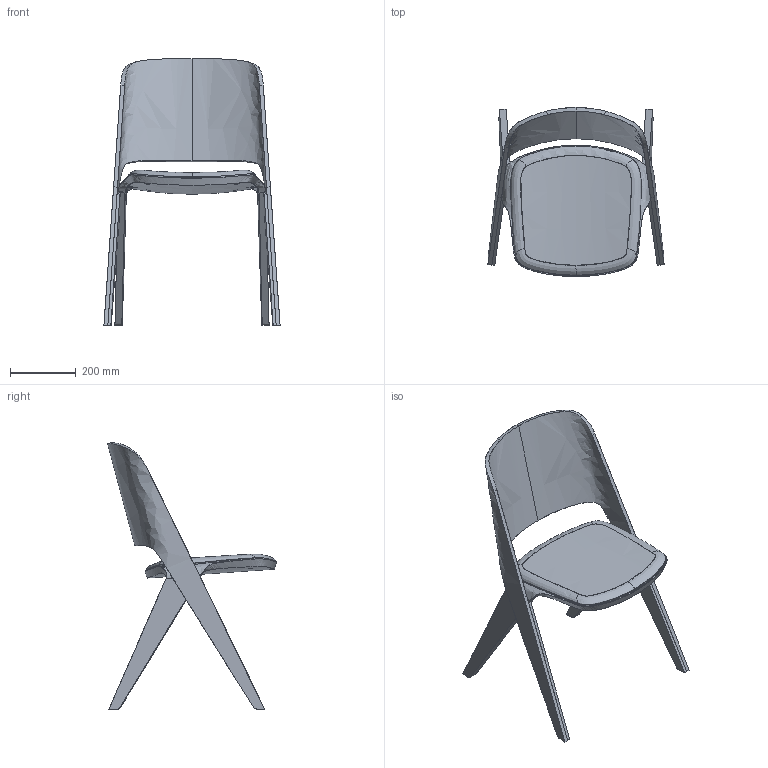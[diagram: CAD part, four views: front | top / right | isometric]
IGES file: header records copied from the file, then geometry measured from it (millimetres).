
Start section: SolidWorks IGES file using analytic representation for surfaces
Global section: file name: G:\My Drive\POIAT products\Tuotekehitys\POIAT (ajantasa) tuotteet mallikansio\Lavitta Chair\3-D\Lavitta Chair - upholstered\Lavitta Chair - upholstered.igs; native system: Rhinoceros ( May 22 2017 ); preprocessor: Trout Lake IGES 012 May 22 2017; date: 200610.124209; units: millimetre
Bounding box: 537.32 x 515.16 x 814.16 mm (x, y, z)
Surface area: 1684598.5 mm2 (no closed solid volume)
Topology: 0 solids, 0 shells, 130 faces, 4279 edges, 4249 vertices
Faces by surface type: bspline 130
